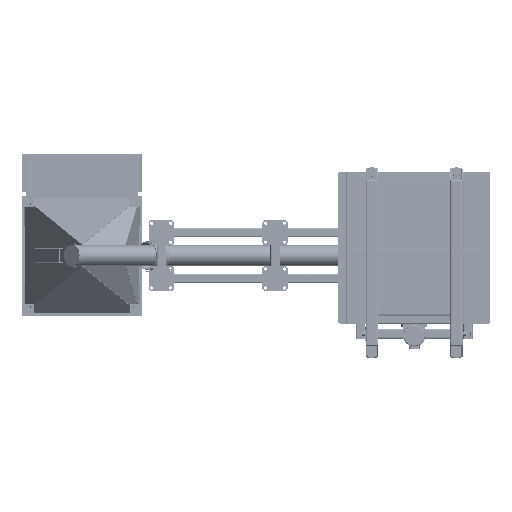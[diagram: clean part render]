
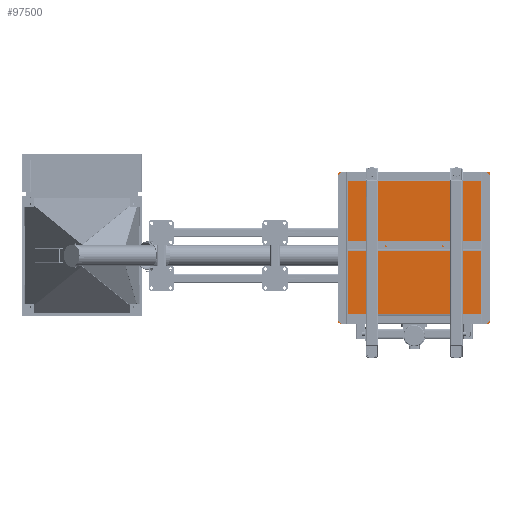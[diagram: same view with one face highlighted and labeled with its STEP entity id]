
A CAD part, front view. The second image highlights one B-rep face of the part: STEP entity #97500.
In plain terms, the highlighted planar face has unit normal (0, -1, 0) as drawn and (0, 0, -1) by its records, which use the part's own axes.
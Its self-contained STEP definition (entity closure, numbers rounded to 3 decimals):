
#9828=PLANE('',#109640);
#15147=FACE_OUTER_BOUND('',#21479,.T.);
#21479=EDGE_LOOP('',(#87018,#87019,#87020,#87021,#87022,#87023,#87024,#87025));
#27370=LINE('',#263282,#33213);
#27376=LINE('',#263303,#33219);
#27380=LINE('',#263314,#33223);
#27381=LINE('',#263315,#33224);
#33213=VECTOR('',#134279,1.);
#33219=VECTOR('',#134299,1.);
#33223=VECTOR('',#134313,1.);
#33224=VECTOR('',#134314,1.);
#38694=CIRCLE('',#109626,0.5);
#38699=CIRCLE('',#109634,0.5);
#38700=CIRCLE('',#109637,0.5);
#38701=CIRCLE('',#109639,0.5);
#47138=VERTEX_POINT('',#263269);
#47139=VERTEX_POINT('',#263270);
#47143=VERTEX_POINT('',#263280);
#47149=VERTEX_POINT('',#263296);
#47150=VERTEX_POINT('',#263297);
#47151=VERTEX_POINT('',#263302);
#47152=VERTEX_POINT('',#263306);
#47153=VERTEX_POINT('',#263310);
#60617=EDGE_CURVE('',#47138,#47139,#38694,.T.);
#60623=EDGE_CURVE('',#47143,#47138,#27370,.T.);
#60630=EDGE_CURVE('',#47149,#47150,#38699,.T.);
#60633=EDGE_CURVE('',#47150,#47151,#27376,.T.);
#60635=EDGE_CURVE('',#47151,#47152,#38700,.T.);
#60637=EDGE_CURVE('',#47153,#47143,#38701,.T.);
#60639=EDGE_CURVE('',#47152,#47153,#27380,.T.);
#60640=EDGE_CURVE('',#47139,#47149,#27381,.T.);
#87018=ORIENTED_EDGE('',*,*,#60617,.F.);
#87019=ORIENTED_EDGE('',*,*,#60623,.F.);
#87020=ORIENTED_EDGE('',*,*,#60637,.F.);
#87021=ORIENTED_EDGE('',*,*,#60639,.F.);
#87022=ORIENTED_EDGE('',*,*,#60635,.F.);
#87023=ORIENTED_EDGE('',*,*,#60633,.F.);
#87024=ORIENTED_EDGE('',*,*,#60630,.F.);
#87025=ORIENTED_EDGE('',*,*,#60640,.F.);
#97500=ADVANCED_FACE('',(#15147),#9828,.T.);
#109626=AXIS2_PLACEMENT_3D('',#263271,#134269,#134270);
#109634=AXIS2_PLACEMENT_3D('',#263298,#134293,#134294);
#109637=AXIS2_PLACEMENT_3D('',#263307,#134303,#134304);
#109639=AXIS2_PLACEMENT_3D('',#263311,#134308,#134309);
#109640=AXIS2_PLACEMENT_3D('',#263313,#134311,#134312);
#134269=DIRECTION('center_axis',(0.,0.,1.));
#134270=DIRECTION('ref_axis',(-0.707,-0.707,0.));
#134279=DIRECTION('',(0.,-1.,0.));
#134293=DIRECTION('center_axis',(0.,0.,1.));
#134294=DIRECTION('ref_axis',(0.707,-0.707,0.));
#134299=DIRECTION('',(0.,1.,0.));
#134303=DIRECTION('center_axis',(0.,0.,1.));
#134304=DIRECTION('ref_axis',(0.707,0.707,0.));
#134308=DIRECTION('center_axis',(0.,0.,1.));
#134309=DIRECTION('ref_axis',(-0.707,0.707,0.));
#134311=DIRECTION('center_axis',(0.,0.,-1.));
#134312=DIRECTION('ref_axis',(1.,0.,0.));
#134313=DIRECTION('',(-1.,0.,0.));
#134314=DIRECTION('',(1.,0.,0.));
#263269=CARTESIAN_POINT('',(-26.5,-23.5,8.));
#263270=CARTESIAN_POINT('',(-26.,-24.,8.));
#263271=CARTESIAN_POINT('Origin',(-26.,-23.5,8.));
#263280=CARTESIAN_POINT('',(-26.5,23.5,8.));
#263282=CARTESIAN_POINT('',(-26.5,0.,8.));
#263296=CARTESIAN_POINT('',(21.,-24.,8.));
#263297=CARTESIAN_POINT('',(21.5,-23.5,8.));
#263298=CARTESIAN_POINT('Origin',(21.,-23.5,8.));
#263302=CARTESIAN_POINT('',(21.5,23.5,8.));
#263303=CARTESIAN_POINT('',(21.5,0.,8.));
#263306=CARTESIAN_POINT('',(21.,24.,8.));
#263307=CARTESIAN_POINT('Origin',(21.,23.5,8.));
#263310=CARTESIAN_POINT('',(-26.,24.,8.));
#263311=CARTESIAN_POINT('Origin',(-26.,23.5,8.));
#263313=CARTESIAN_POINT('Origin',(-2.5,0.,
8.));
#263314=CARTESIAN_POINT('',(-2.5,24.,8.));
#263315=CARTESIAN_POINT('',(-2.5,-24.,8.));
